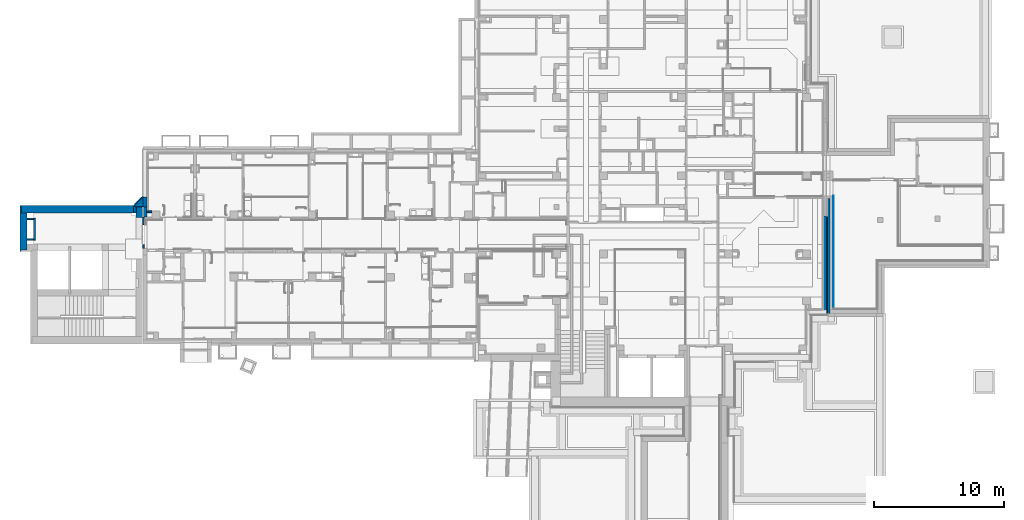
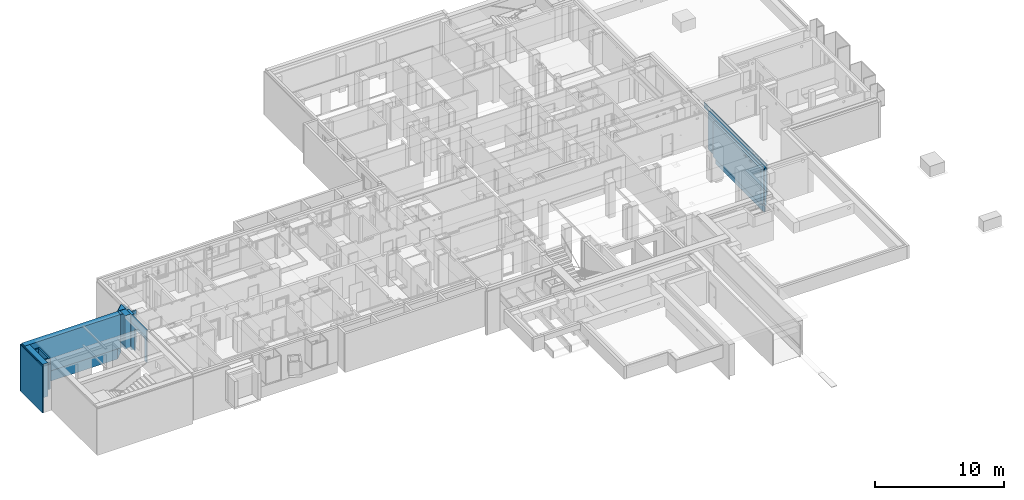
# One storey, part 21 of 84: 16 walls, 10 openings.
"""IFC4 building model written with IfcOpenShell, lengths in metres."""

from ifc_helpers import new_model, entity, si_unit, converted_unit, derived_unit, frame, frame_2d, origin, origin_with_axes, place, context, subcontext, project, spatial, polyline, rectangle, outline, extrude, clip, bounded_halfspace, material, layer, layer_set, layer_usage, element, save


model = new_model("IFC4")

# Units and contexts
model_context = context("Model", 3, precision=1e-05, world=origin())
body_context = subcontext(model_context, "Body", "Model", "MODEL_VIEW")
ifc_project = project(units=[si_unit("LENGTHUNIT", "METRE"), si_unit("AREAUNIT", "SQUARE_METRE"), si_unit("VOLUMEUNIT", "CUBIC_METRE"), si_unit("MASSUNIT", "GRAM", prefix="KILO"), converted_unit("PLANEANGLEUNIT", "DEGREE", entity("IfcPlaneAngleMeasure", 0.0174532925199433), si_unit("PLANEANGLEUNIT", "RADIAN"), dimensions=[0, 0, 0, 0, 0, 0, 0]), derived_unit("THERMALTRANSMITTANCEUNIT", [(si_unit("POWERUNIT", "WATT"), 1), (si_unit("THERMODYNAMICTEMPERATUREUNIT", "KELVIN"), -1), (si_unit("LENGTHUNIT", "METRE"), -2)]), derived_unit("VOLUMETRICFLOWRATEUNIT", [(si_unit("LENGTHUNIT", "METRE"), 3), (converted_unit("TIMEUNIT", "hour", entity("IfcTimeMeasure", 3600.0), si_unit("TIMEUNIT", "SECOND"), dimensions=[0, 0, 1, 0, 0, 0, 0]), -1), (si_unit("LENGTHUNIT", "METRE"), -1)])], contexts=[model_context])

# Site, building, storey
site_placement = place(None, origin())
site = spatial("IfcSite", under=ifc_project, at=site_placement, Name="3. ASŘ", CompositionType="ELEMENT")
building_placement = place(site_placement, origin())
building = spatial("IfcBuilding", under=site, at=building_placement, Name="Pavilon C", CompositionType="ELEMENT")
storey_placement = place(building_placement, frame((0.0, 0.0, -3.3)))
storey = spatial("IfcBuildingStorey", under=building, at=storey_placement, Name="Půdorys 1.PP", CompositionType="ELEMENT", Elevation=-3.3)

# Walls
ifc_material_1 = material(Name="ZELEZOBETONOVÁ KCE")
ifc_layer_1 = layer(ifc_material_1, 0.5)
ifc_layer_set_1 = layer_set([ifc_layer_1])
ifc_layer_usage_1 = layer_usage(ifc_layer_set_1, "AXIS2", "POSITIVE", 0.0)
wall_1_placement = place(storey_placement, frame((-1.02499999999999, 10.0, -0.1), z_axis=(0.0, 0.0, 1.0), x_axis=(0.0, 1.0, 0.0)))
element("IfcWall", 1, at=wall_1_placement, inside=storey, material=ifc_layer_usage_1, Name="ZELEZOBETONOVÁ KCE", context=body_context, shape_type="SweptSolid", body=[
    extrude(rectangle(XDim=0.8, YDim=0.5, at=frame_2d((0.4, 0.25), x_axis=(1.0, 0.0))), origin_with_axes(), (0.0, 0.0, 1.0), 3.18),
])
ifc_material_2 = material(Name="ZDIVO Z CDm")
ifc_layer_2 = layer(ifc_material_2, 0.125)
ifc_layer_set_2 = layer_set([ifc_layer_2])
ifc_layer_usage_2 = layer_usage(ifc_layer_set_2, "AXIS2", "POSITIVE", 0.0)
wall_2_placement = place(storey_placement, frame((-0.299999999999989, 10.5, -0.1), z_axis=(0.0, 0.0, 1.0), x_axis=(-1.0, 0.0, 0.0)))
element("IfcWall", 2, at=wall_2_placement, inside=storey, material=ifc_layer_usage_2, Name="ZDIVO Z CDm", context=body_context, shape_type="SweptSolid", body=[
    extrude(rectangle(XDim=0.4, YDim=0.125, at=frame_2d((0.2, 0.0625), x_axis=(1.0, 0.0))), origin_with_axes(), (0.0, 0.0, 1.0), 3.05),
])
ifc_material_3 = material(Name="ZELEZOBETONOVÁ KCE")
ifc_layer_3 = layer(ifc_material_3, 0.25)
ifc_layer_set_3 = layer_set([ifc_layer_3])
ifc_layer_usage_3 = layer_usage(ifc_layer_set_3, "AXIS2", "POSITIVE", 0.0)
wall_3_placement = place(storey_placement, frame((-0.699999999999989, 10.025, -0.4), z_axis=(0.0, 0.0, 1.0), x_axis=(1.46692693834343e-16, 1.0, 0.0)))
element("IfcWall", 3, at=wall_3_placement, inside=storey, material=ifc_layer_usage_3, Name="ZELEZOBETONOVÁ KCE", context=body_context, shape_type="SweptSolid", body=[
    extrude(rectangle(XDim=0.775, YDim=0.25, at=frame_2d((0.3875, 0.125), x_axis=(1.0, 0.0))), origin_with_axes(), (0.0, 0.0, 1.0), 3.35),
])
ifc_material_4 = material(Name="ZELEZOBETONOVÁ KCE")
ifc_layer_4 = layer(ifc_material_4, 0.45)
ifc_material_5 = material(Name="LIGNOPOR")
ifc_layer_5 = layer(ifc_material_5, 0.025)
ifc_material_6 = material(Name="PÓROBETONOVÉ ZDIVO")
ifc_layer_6 = layer(ifc_material_6, 0.08)
ifc_layer_set_4 = layer_set([ifc_layer_4, ifc_layer_5, ifc_layer_6])
ifc_layer_usage_4 = layer_usage(ifc_layer_set_4, "AXIS2", "POSITIVE", 0.0)
wall_4_placement = place(storey_placement, frame((-10.325, 10.35, -1.45)))
element("IfcWall", 4, at=wall_4_placement, inside=storey, material=ifc_layer_usage_4, Name="ZELEZOBETONOVÁ KCE", context=body_context, shape_type="Clipping", body=[
    clip(clip(clip(extrude(outline(polyline([(0.08, 0.45), (0.105, 0.45), (0.105, 0.0), (8.71253787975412, 0.0), (8.71253787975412, 0.475), (8.67940079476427, 0.555), (0.0, 0.555), (0.0, 0.475), (0.08, 0.475), (0.08, 0.45)])), frame((-0.105, 0.0, 0.0), z_axis=(0.0, 0.0, 1.0), x_axis=(1.0, 0.0, 0.0)), (0.0, 0.0, 1.0), 4.53), bounded_halfspace(frame((4.30376893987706, 0.224999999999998, 1.35), z_axis=(0.0, 0.0, 1.0), x_axis=(0.0, -1.0, 0.0)), True, origin_with_axes(), polyline([(0.0, 0.449999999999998), (0.0, -1.81898940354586e-15), (8.60753787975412, -1.81898940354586e-15), (8.60753787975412, 0.449999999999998), (0.0, 0.449999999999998)]))), bounded_halfspace(frame((3.43301515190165, 0.459999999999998, 1.45), z_axis=(0.0, 0.0, 1.0), x_axis=(0.0, -1.0, 0.0)), True, origin_with_axes(), polyline([(-0.025, 0.474999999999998), (-0.025, 0.449999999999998), (0.0, 0.449999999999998), (8.60753787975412, 0.449999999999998), (8.60753787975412, 0.474999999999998), (-0.025, 0.474999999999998)]))), bounded_halfspace(frame((3.38938773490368, 0.507, 4.4), z_axis=(0.0, 0.0, -1.0), x_axis=(1.0, 0.0, 0.0)), True, origin_with_axes(), polyline([(-0.025, 0.474999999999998), (8.60753787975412, 0.474999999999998), (8.57440079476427, 0.555), (-0.105, 0.555), (-0.105, 0.475), (-0.025, 0.474999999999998)]))),
])
ifc_material_7 = material(Name="PÓROBETONOVÉ ZDIVO")
ifc_layer_7 = layer(ifc_material_7, 0.0800000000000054)
ifc_layer_set_5 = layer_set([ifc_layer_7])
ifc_layer_usage_5 = layer_usage(ifc_layer_set_5, "AXIS2", "POSITIVE", 0.0)
wall_5_placement = place(storey_placement, frame((-1.71746212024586, 10.825, -1.45), z_axis=(0.0, 0.0, 1.0), x_axis=(0.707106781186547, 0.707106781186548, 0.0)))
element("IfcWall", 5, at=wall_5_placement, inside=storey, material=ifc_layer_usage_5, Name="ZELEZOBETONOVÁ KCE", context=body_context, shape_type="SweptSolid", body=[
    extrude(outline(polyline([(0.0234314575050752, -0.0234314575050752), (1.07343145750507, -0.0234314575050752), (1.0402943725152, 0.0565685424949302), (0.0565685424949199, 0.0565685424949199), (0.0234314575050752, -0.0234314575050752)])), frame((-0.0234314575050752, 0.0234314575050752, 0.0), z_axis=(0.0, 0.0, 1.0), x_axis=(1.0, 0.0, 0.0)), (0.0, 0.0, 1.0), 4.4),
])
ifc_material_8 = material(Name="ZELEZOBETONOVÁ KCE")
ifc_layer_8 = layer(ifc_material_8, 0.25)
ifc_material_9 = material(Name="LIGNOPOR")
ifc_layer_9 = layer(ifc_material_9, 0.0250000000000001)
ifc_layer_set_6 = layer_set([ifc_layer_8, ifc_layer_9])
ifc_layer_usage_6 = layer_usage(ifc_layer_set_6, "AXIS2", "POSITIVE", 0.0)
wall_6_placement = place(storey_placement, frame((-0.699999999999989, 10.8, -0.4), z_axis=(0.0, 0.0, 1.0), x_axis=(0.0, 1.0, 0.0)))
element("IfcWall", 6, at=wall_6_placement, inside=storey, material=ifc_layer_usage_6, Name="ZELEZOBETONOVÁ KCE", context=body_context, shape_type="Clipping", body=[
    clip(extrude(rectangle(XDim=0.767462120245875, YDim=0.275, at=frame_2d((0.383731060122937, 0.1375), x_axis=(1.0, 0.0))), origin_with_axes(), (0.0, 0.0, 1.0), 3.35), bounded_halfspace(frame((0.383731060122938, 0.2625, 0.4), z_axis=(0.0, 0.0, 1.0), x_axis=(0.0, -1.0, 0.0)), True, origin_with_axes(), polyline([(0.0, 0.275), (0.0, 0.25), (0.767462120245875, 0.25), (0.767462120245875, 0.275), (0.0, 0.275)]))),
])
ifc_material_10 = material(Name="ZELEZOBETONOVÁ KCE")
ifc_layer_10 = layer(ifc_material_10, 0.45)
ifc_material_11 = material(Name="LIGNOPOR")
ifc_layer_11 = layer(ifc_material_11, 0.025)
ifc_layer_set_7 = layer_set([ifc_layer_10, ifc_layer_11])
ifc_layer_usage_7 = layer_usage(ifc_layer_set_7, "AXIS2", "POSITIVE", 0.0)
wall_7_placement = place(storey_placement, frame((-1.71746212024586, 10.35, -0.1)))
element("IfcWall", 7, at=wall_7_placement, inside=storey, material=ifc_layer_usage_7, Name="ZELEZOBETONOVÁ KCE", context=body_context, shape_type="Clipping", body=[
    clip(extrude(outline(polyline([(0.0, 0.0), (0.192462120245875, 0.0), (0.192462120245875, 0.45), (0.692462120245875, 0.45), (0.692462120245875, 0.475), (0.0, 0.475), (0.0, 0.0)])), origin_with_axes(), (0.0, 0.0, 1.0), 3.18), bounded_halfspace(frame((0.315477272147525, 0.46, 0.1), z_axis=(0.0, 0.0, 1.0), x_axis=(0.0, -1.0, 0.0)), True, origin_with_axes(), polyline([(0.0, 0.475), (0.0, 0.45), (0.192462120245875, 0.45), (0.692462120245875, 0.45), (0.692462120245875, 0.475), (0.0, 0.475)]))),
])

# Wall, opening
ifc_material_12 = material(Name="ZDIVO Z CDm")
ifc_layer_12 = layer(ifc_material_12, 0.125)
ifc_layer_set_8 = layer_set([ifc_layer_12])
ifc_layer_usage_8 = layer_usage(ifc_layer_set_8, "AXIS2", "POSITIVE", 0.0)
wall_8_placement = place(storey_placement, frame((-0.999999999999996, 10.025, -0.1), z_axis=(0.0, 0.0, 1.0), x_axis=(-1.8947806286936e-16, -1.0, 0.0)))
wall_8 = element("IfcWall", 8, at=wall_8_placement, inside=storey, material=ifc_layer_usage_8, Name="ZDIVO Z CDm", context=body_context, shape_type="SweptSolid", body=[
    extrude(rectangle(XDim=2.4, YDim=0.125, at=frame_2d((1.2, 0.0625), x_axis=(1.0, 0.0))), origin_with_axes(), (0.0, 0.0, 1.0), 3.05),
])
opening_1_placement = place(wall_8_placement, frame((2.12500000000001, 0.125, 0.0), z_axis=(0.0, -1.0, 0.0), x_axis=(0.0, 0.0, 1.0)))
element("IfcOpeningElement", 9, at=opening_1_placement, cuts=wall_8, Name="Dveřní otvor", ObjectType="Opening", context=body_context, shape_type="SweptSolid", body=[
    extrude(outline(polyline([(0.0, 1.55), (2.12, 1.55), (2.12, 0.0), (0.0, 0.0), (0.0, 1.55)])), origin_with_axes(), (0.0, 0.0, 1.0), 0.125),
])

# Walls
ifc_material_13 = material(Name="ZELEZOBETONOVÁ KCE")
ifc_layer_13 = layer(ifc_material_13, 0.742462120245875)
ifc_layer_set_9 = layer_set([ifc_layer_13])
ifc_layer_usage_9 = layer_usage(ifc_layer_set_9, "AXIS2", "POSITIVE", 0.0)
wall_9_placement = place(storey_placement, frame((-1.71746212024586, 10.825, -0.1)))
element("IfcWall", 10, at=wall_9_placement, inside=storey, material=ifc_layer_usage_9, Name="ZELEZOBETONOVÁ KCE", context=body_context, shape_type="SweptSolid", body=[
    extrude(outline(polyline([(0.0, 0.0), (0.742462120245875, 0.0), (0.742462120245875, 0.742462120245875), (0.0, 0.0)])), origin_with_axes(), (0.0, 0.0, 1.0), 3.18),
])
ifc_material_14 = material(Name="ZDIVO Z CDm")
ifc_layer_14 = layer(ifc_material_14, 0.125)
ifc_layer_set_10 = layer_set([ifc_layer_14])
ifc_layer_usage_10 = layer_usage(ifc_layer_set_10, "AXIS2", "POSITIVE", 0.0)
wall_10_placement = place(storey_placement, frame((-9.37499999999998, 8.375, -0.1), z_axis=(0.0, 0.0, 1.0), x_axis=(-1.0, 0.0, 0.0)))
element("IfcWall", 11, at=wall_10_placement, inside=storey, material=ifc_layer_usage_10, Name="ZDIVO Z CDm", context=body_context, shape_type="SweptSolid", body=[
    extrude(rectangle(XDim=0.5, YDim=0.125, at=frame_2d((0.25, 0.0625), x_axis=(1.0, 0.0))), origin_with_axes(), (0.0, 0.0, 1.0), 2.93),
])
ifc_material_15 = material(Name="ZDIVO Z CDm")
ifc_layer_15 = layer(ifc_material_15, 0.125)
ifc_layer_set_11 = layer_set([ifc_layer_15])
ifc_layer_usage_11 = layer_usage(ifc_layer_set_11, "AXIS2", "POSITIVE", 0.0)
wall_11_placement = place(storey_placement, frame((-9.37499999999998, 9.95, -0.1), z_axis=(0.0, 0.0, 1.0), x_axis=(-1.0, 0.0, 0.0)))
element("IfcWall", 12, at=wall_11_placement, inside=storey, material=ifc_layer_usage_11, Name="ZDIVO Z CDm", context=body_context, shape_type="SweptSolid", body=[
    extrude(rectangle(XDim=0.5, YDim=0.125, at=frame_2d((0.25, 0.0625), x_axis=(1.0, 0.0))), origin_with_axes(), (0.0, 0.0, 1.0), 2.93),
])
ifc_material_16 = material(Name="ZELEZOBETONOVÁ KCE")
ifc_layer_16 = layer(ifc_material_16, 0.45)
ifc_material_17 = material(Name="LIGNOPOR")
ifc_layer_17 = layer(ifc_material_17, 0.025)
ifc_material_18 = material(Name="PÓROBETONOVÉ ZDIVO")
ifc_layer_18 = layer(ifc_material_18, 0.08)
ifc_layer_set_12 = layer_set([ifc_layer_16, ifc_layer_17, ifc_layer_18])
ifc_layer_usage_12 = layer_usage(ifc_layer_set_12, "AXIS2", "POSITIVE", 0.0)
wall_12_placement = place(storey_placement, frame((-9.87499999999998, 7.5, -1.45), z_axis=(0.0, 0.0, 1.0), x_axis=(0.0, 1.0, 0.0)))
element("IfcWall", 13, at=wall_12_placement, inside=storey, material=ifc_layer_usage_12, Name="ZELEZOBETONOVÁ KCE", context=body_context, shape_type="Clipping", body=[
    clip(clip(clip(extrude(outline(polyline([(0.105, -0.555), (2.955, -0.555), (2.955, -0.105), (3.405, -0.105), (3.405, -0.08), (3.43, -0.08), (3.43, 0.0), (0.0, 0.0), (0.0, -0.08), (0.08, -0.08), (0.08, -0.105), (0.105, -0.105), (0.105, -0.555)])), frame((-0.105, 0.555, 0.0), z_axis=(0.0, 0.0, 1.0), x_axis=(1.0, 0.0, 0.0)), (0.0, 0.0, 1.0), 4.53), bounded_halfspace(frame((1.425, 0.225, 1.35), z_axis=(0.0, 0.0, 1.0), x_axis=(0.0, -1.0, 0.0)), True, origin_with_axes(), polyline([(-9.09494701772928e-16, 0.45), (-9.09494701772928e-16, 0.0), (2.85, 0.0), (2.85, 0.45), (-9.09494701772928e-16, 0.45)]))), bounded_halfspace(frame((1.56666666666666, 0.458333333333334, 1.45), z_axis=(0.0, 0.0, 1.0), x_axis=(0.0, -1.0, 0.0)), True, origin_with_axes(), polyline([(-0.0250000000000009, 0.475), (-0.0250000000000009, 0.45), (-9.09494701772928e-16, 0.45), (2.85, 0.45), (3.3, 0.45), (3.3, 0.475), (-0.0250000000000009, 0.475)]))), bounded_halfspace(frame((1.61916666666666, 0.501666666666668, 4.4), z_axis=(0.0, 0.0, -1.0), x_axis=(1.0, 0.0, 0.0)), True, origin_with_axes(), polyline([(3.3, 0.475), (3.325, 0.475), (3.325, 0.555), (-0.105, 0.555), (-0.105, 0.475), (-0.0250000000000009, 0.475), (3.3, 0.475)]))),
])
ifc_material_19 = material(Name="ZDIVO Z CDm")
ifc_layer_19 = layer(ifc_material_19, 0.125)
ifc_layer_set_13 = layer_set([ifc_layer_19])
ifc_layer_usage_13 = layer_usage(ifc_layer_set_13, "AXIS2", "POSITIVE", 0.0)
wall_13_placement = place(storey_placement, frame((-9.37499999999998, 9.95, -0.1), z_axis=(0.0, 0.0, 1.0), x_axis=(0.0, -1.0, 0.0)))
element("IfcWall", 14, at=wall_13_placement, inside=storey, material=ifc_layer_usage_13, Name="ZDIVO Z CDm", context=body_context, shape_type="SweptSolid", body=[
    extrude(rectangle(XDim=1.7, YDim=0.125, at=frame_2d((0.85, 0.0625), x_axis=(1.0, 0.0))), origin_with_axes(), (0.0, 0.0, 1.0), 2.93),
])

# Wall, openings
ifc_material_20 = material(Name="ZELEZOBETONOVÁ KCE")
ifc_layer_20 = layer(ifc_material_20, 0.2)
ifc_material_21 = material(Name="LIGNOPOR")
ifc_layer_21 = layer(ifc_material_21, 0.025)
ifc_material_22 = material(Name="PÓROBETONOVÉ ZDIVO")
ifc_layer_22 = layer(ifc_material_22, 0.08)
ifc_layer_set_14 = layer_set([ifc_layer_20, ifc_layer_21, ifc_layer_22])
ifc_layer_usage_14 = layer_usage(ifc_layer_set_14, "AXIS2", "POSITIVE", 0.0)
wall_14_placement = place(storey_placement, frame((51.25, 10.1, -1.15), z_axis=(0.0, 0.0, 1.0), x_axis=(0.0, -1.0, 0.0)))
wall_14 = element("IfcWall", 15, at=wall_14_placement, inside=storey, material=ifc_layer_usage_14, Name="ZELEZOBETONOVÁ KCE", context=body_context, shape_type="Clipping", body=[
    clip(clip(clip(extrude(outline(polyline([(-7.575, 0.0), (-0.105, 0.0), (-0.105, 0.2), (-0.08, 0.2), (-0.08, 0.225), (0.0, 0.225), (0.0, 0.305), (-7.575, 0.305), (-7.575, 0.0)])), frame((7.575, 0.0, 0.0), z_axis=(0.0, 0.0, 1.0), x_axis=(1.0, 0.0, 0.0)), (0.0, 0.0, 1.0), 4.1), bounded_halfspace(frame((3.735, 0.1, 0.750000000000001), z_axis=(0.0, 0.0, 1.0), x_axis=(0.0, -1.0, 0.0)), True, origin_with_axes(), polyline([(0.0, 0.2), (0.0, 0.0), (7.47, 0.0), (7.47, 0.2), (0.0, 0.2)]))), bounded_halfspace(frame((4.492, 0.210000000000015, 1.15), z_axis=(8.82914596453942e-30, -9.09494701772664e-15, 1.0), x_axis=(0.0, -1.0, 0.0)), True, origin_with_axes(), polyline([(0.0, 0.225000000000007), (0.0, 0.2), (7.47, 0.2), (7.495, 0.200000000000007), (7.495, 0.225000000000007), (0.0, 0.225000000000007)]))), bounded_halfspace(frame((3.7875, 0.265000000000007, 0.550000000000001), z_axis=(0.0, 0.0, -1.0), x_axis=(1.0, 0.0, 0.0)), True, origin_with_axes(), polyline([(0.0, 0.225000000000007), (7.575, 0.225000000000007), (7.575, 0.305000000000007), (0.0, 0.305000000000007), (0.0, 0.225000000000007)]))),
])
opening_2_placement = place(wall_14_placement, frame((6.03139110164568, 0.305, 3.85), z_axis=(0.0, -1.0, 0.0), x_axis=(0.0, 0.0, 1.0)))
element("IfcOpeningElement", 16, at=opening_2_placement, cuts=wall_14, Name="Prostup stěnou", ObjectType="Opening", context=body_context, shape_type="SweptSolid", body=[
    extrude(outline(polyline([(0.0, 0.299999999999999), (0.15, 0.299999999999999), (0.15, 0.0), (0.0, 0.0), (0.0, 0.299999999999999)])), origin_with_axes(), (0.0, 0.0, 1.0), 0.08),
    extrude(outline(polyline([(0.0, 0.299999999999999), (0.15, 0.299999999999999), (0.15, 0.0), (0.0, 0.0), (0.0, 0.299999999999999)])), frame((0.0, 0.0, 0.08), z_axis=(0.0, 0.0, 1.0), x_axis=(1.0, 0.0, 0.0)), (0.0, 0.0, 1.0), 0.025),
    extrude(outline(polyline([(0.0, 0.299999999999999), (0.15, 0.299999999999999), (0.15, 0.0), (0.0, 0.0), (0.0, 0.299999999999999)])), frame((0.0, 0.0, 0.105), z_axis=(0.0, 0.0, 1.0), x_axis=(1.0, 0.0, 0.0)), (0.0, 0.0, 1.0), 0.2),
])
opening_3_placement = place(wall_14_placement, frame((5.21139110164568, 0.305, 3.85), z_axis=(0.0, -1.0, 0.0), x_axis=(0.0, 0.0, 1.0)))
element("IfcOpeningElement", 17, at=opening_3_placement, cuts=wall_14, Name="Prostup stěnou", ObjectType="Opening", context=body_context, shape_type="SweptSolid", body=[
    extrude(outline(polyline([(0.0, 0.3), (0.15, 0.3), (0.15, 0.0), (0.0, 0.0), (0.0, 0.3)])), origin_with_axes(), (0.0, 0.0, 1.0), 0.08),
    extrude(outline(polyline([(0.0, 0.3), (0.15, 0.3), (0.15, 0.0), (0.0, 0.0), (0.0, 0.3)])), frame((0.0, 0.0, 0.08), z_axis=(0.0, 0.0, 1.0), x_axis=(1.0, 0.0, 0.0)), (0.0, 0.0, 1.0), 0.025),
    extrude(outline(polyline([(0.0, 0.3), (0.15, 0.3), (0.15, 0.0), (0.0, 0.0), (0.0, 0.3)])), frame((0.0, 0.0, 0.105), z_axis=(0.0, 0.0, 1.0), x_axis=(1.0, 0.0, 0.0)), (0.0, 0.0, 1.0), 0.2),
])

ifc_material_23 = material(Name="AKUSTICKÝ OBKLAD")
ifc_layer_23 = layer(ifc_material_23, 0.05)
ifc_layer_set_15 = layer_set([ifc_layer_23])
ifc_layer_usage_15 = layer_usage(ifc_layer_set_15, "AXIS2", "POSITIVE", 0.0)
wall_15_placement = place(storey_placement, frame((51.98, 12.8, 0.0), z_axis=(0.0, 0.0, 1.0), x_axis=(0.0, -1.0, 0.0)))
wall_15 = element("IfcWall", 18, at=wall_15_placement, inside=storey, material=ifc_layer_usage_15, Name="AKUSTICKÝ OBKLAD", context=body_context, shape_type="SweptSolid", body=[
    extrude(rectangle(XDim=9.81999999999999, YDim=0.05, at=frame_2d((4.91, 0.025), x_axis=(1.0, 0.0))), origin_with_axes(), (0.0, 0.0, 1.0), 2.9),
])
opening_4_placement = place(wall_15_placement, frame((0.916154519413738, 0.05, 2.58), z_axis=(0.0, -1.0, 0.0), x_axis=(0.0, 0.0, 1.0)))
element("IfcOpeningElement", 19, at=opening_4_placement, cuts=wall_15, Name="Prostup stěnou", ObjectType="Opening", context=body_context, shape_type="SweptSolid", body=[
    extrude(outline(polyline([(0.149999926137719, 0.0), (0.134320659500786, 0.000821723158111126), (0.118813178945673, 0.00327787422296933), (0.103647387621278, 0.00734154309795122), (0.0889894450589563, 0.0129682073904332), (0.074999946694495, 0.0200962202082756), (0.0618321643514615, 0.0286474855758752), (0.0496303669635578, 0.0385283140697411), (0.0385282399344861, 0.0496304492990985), (0.0286474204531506, 0.0618322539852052), (0.0200961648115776, 0.0750000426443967), (0.0129681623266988, 0.0889895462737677), (0.00734150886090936, 0.103647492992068), (0.00327785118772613, 0.11881328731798), (0.000821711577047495, 0.134320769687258), (0.0, 0.150000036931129), (0.000821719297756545, 0.165679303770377), (0.00327786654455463, 0.181186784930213), (0.00734153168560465, 0.196352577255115), (0.0129681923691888, 0.211010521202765), (0.0200962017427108, 0.225000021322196), (0.0286474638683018, 0.238167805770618), (0.0385282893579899, 0.250369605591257), (0.0496304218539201, 0.261471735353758), (0.0618322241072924, 0.271352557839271), (0.075000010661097, 0.279903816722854), (0.0889895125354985, 0.287031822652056), (0.103647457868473, 0.292658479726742), (0.118813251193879, 0.296722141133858), (0.134320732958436, 0.299178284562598), (0.149999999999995, 0.3), (0.165679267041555, 0.299178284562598), (0.181186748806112, 0.296722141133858), (0.196352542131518, 0.292658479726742), (0.211010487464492, 0.287031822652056), (0.224999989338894, 0.279903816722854), (0.238167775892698, 0.271352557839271), (0.250369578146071, 0.261471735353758), (0.261471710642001, 0.250369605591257), (0.271352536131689, 0.238167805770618), (0.27990379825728, 0.225000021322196), (0.287031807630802, 0.211010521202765), (0.292658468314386, 0.196352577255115), (0.296722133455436, 0.181186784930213), (0.299178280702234, 0.165679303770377), (0.299999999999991, 0.150000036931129), (0.299178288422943, 0.134320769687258), (0.296722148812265, 0.11881328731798), (0.292658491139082, 0.103647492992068), (0.287031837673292, 0.0889895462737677), (0.279903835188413, 0.0750000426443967), (0.27135257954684, 0.0618322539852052), (0.261471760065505, 0.0496304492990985), (0.250369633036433, 0.0385283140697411), (0.238167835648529, 0.0286474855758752), (0.225000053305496, 0.0200962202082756), (0.211010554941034, 0.0129682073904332), (0.196352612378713, 0.00734154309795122), (0.181186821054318, 0.00327787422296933), (0.165679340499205, 0.000821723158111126), (0.149999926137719, 0.0)])), origin_with_axes(), (0.0, 0.0, 1.0), 0.05),
])
opening_5_placement = place(wall_15_placement, frame((0.280867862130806, 0.0, 2.7), z_axis=(0.0, 1.0, 0.0), x_axis=(0.0, 0.0, 1.0)))
element("IfcOpeningElement", 20, at=opening_5_placement, cuts=wall_15, Name="Prostup stěnou", ObjectType="Opening", context=body_context, shape_type="SweptSolid", body=[
    extrude(outline(polyline([(0.0499999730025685, 0.0), (0.0447735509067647, 0.000273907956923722), (0.0396043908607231, 0.00109262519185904), (0.0345491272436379, 0.00244718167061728), (0.0296631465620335, 0.00432273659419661), (0.0249999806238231, 0.00669874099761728), (0.0206107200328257, 0.0095491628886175), (0.0165434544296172, 0.0128427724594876), (0.0128427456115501, 0.0165434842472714), (0.00954913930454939, 0.0206107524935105), (0.00669872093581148, 0.025000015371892), (0.00432272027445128, 0.0296631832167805), (0.00244716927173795, 0.0345491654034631), (0.00109261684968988, 0.0396044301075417), (0.000273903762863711, 0.0447735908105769), (0.0, 0.0500000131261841), (0.000273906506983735, 0.0552264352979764), (0.00109262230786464, 0.0603955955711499), (0.00244717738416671, 0.0654508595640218), (0.00432273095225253, 0.0703368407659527), (0.00669873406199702, 0.0750000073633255), (0.00954915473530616, 0.0793892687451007), (0.0128427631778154, 0.0834565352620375), (0.0165434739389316, 0.087157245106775), (0.020610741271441, 0.090450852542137), (0.0250000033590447, 0.0933012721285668), (0.0296631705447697, 0.0956772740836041), (0.0345491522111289, 0.0975528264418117), (0.03960441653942, 0.098907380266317), (0.0447735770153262, 0.0997260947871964), (0.0499999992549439, 0.1), (0.0552264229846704, 0.0997260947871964), (0.0603955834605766, 0.098907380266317), (0.0654508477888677, 0.0975528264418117), (0.0703368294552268, 0.0956772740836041), (0.0749999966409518, 0.0933012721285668), (0.0793892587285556, 0.090450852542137), (0.083456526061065, 0.087157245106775), (0.0871572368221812, 0.0834565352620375), (0.0904508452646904, 0.0793892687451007), (0.0933012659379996, 0.0750000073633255), (0.0956772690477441, 0.0703368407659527), (0.0975528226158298, 0.0654508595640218), (0.098907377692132, 0.0603955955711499), (0.0997260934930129, 0.0552264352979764), (0.0999999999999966, 0.0500000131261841), (0.0997260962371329, 0.0447735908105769), (0.0989073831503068, 0.0396044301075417), (0.0975528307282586, 0.0345491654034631), (0.0956772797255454, 0.0296631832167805), (0.0933012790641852, 0.025000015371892), (0.0904508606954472, 0.0206107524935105), (0.0871572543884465, 0.0165434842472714), (0.0834565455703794, 0.0128427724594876), (0.0793892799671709, 0.0095491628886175), (0.0750000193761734, 0.00669874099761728), (0.0703368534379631, 0.00432273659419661), (0.0654508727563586, 0.00244718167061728), (0.0603956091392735, 0.00109262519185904), (0.0552264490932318, 0.000273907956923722), (0.0499999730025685, 0.0)])), origin_with_axes(), (0.0, 0.0, 1.0), 0.05),
])
opening_6_placement = place(wall_15_placement, frame((7.91139110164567, 0.05, 2.7), z_axis=(0.0, -1.0, 0.0), x_axis=(0.0, 0.0, 1.0)))
element("IfcOpeningElement", 21, at=opening_6_placement, cuts=wall_15, Name="Prostup stěnou", ObjectType="Opening", context=body_context, shape_type="SweptSolid", body=[
    extrude(outline(polyline([(0.0, 0.3), (0.15, 0.3), (0.15, 0.0), (0.0, 0.0), (0.0, 0.3)])), origin_with_axes(), (0.0, 0.0, 1.0), 0.05),
])
opening_7_placement = place(wall_15_placement, frame((8.74139110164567, 0.05, 2.7), z_axis=(0.0, -1.0, 0.0), x_axis=(0.0, 0.0, 1.0)))
element("IfcOpeningElement", 22, at=opening_7_placement, cuts=wall_15, Name="Prostup stěnou", ObjectType="Opening", context=body_context, shape_type="SweptSolid", body=[
    extrude(outline(polyline([(0.0, 0.31), (0.15, 0.31), (0.15, 0.0), (0.0, 0.0), (0.0, 0.31)])), origin_with_axes(), (0.0, 0.0, 1.0), 0.05),
])
opening_8_placement = place(wall_15_placement, frame((1.15, 0.05, 0.0), z_axis=(0.0, -1.0, 0.0), x_axis=(0.0, 0.0, 1.0)))
element("IfcOpeningElement", 23, at=opening_8_placement, cuts=wall_15, Name="Dveřní otvor", ObjectType="Opening", context=body_context, shape_type="SweptSolid", body=[
    extrude(outline(polyline([(0.0, 1.15), (2.4, 1.15), (2.4, 0.0), (0.0, 0.0), (0.0, 1.15)])), origin_with_axes(), (0.0, 0.0, 1.0), 0.05),
])

ifc_material_24 = material(Name="PERIMETR")
ifc_layer_24 = layer(ifc_material_24, 0.17)
ifc_layer_set_16 = layer_set([ifc_layer_24])
ifc_layer_usage_16 = layer_usage(ifc_layer_set_16, "AXIS2", "POSITIVE", 0.0)
wall_16_placement = place(storey_placement, frame((51.73, 2.63, -0.6), z_axis=(0.0, 0.0, 1.0), x_axis=(0.0, 1.0, 0.0)))
wall_16 = element("IfcWall", 24, at=wall_16_placement, inside=storey, material=ifc_layer_usage_16, Name="PERIMETR", context=body_context, shape_type="SweptSolid", body=[
    extrude(rectangle(XDim=8.82, YDim=0.17, at=frame_2d((4.41, 0.085), x_axis=(1.0, 0.0))), origin_with_axes(), (0.0, 0.0, 1.0), 3.55),
])
opening_9_placement = place(wall_16_placement, frame((1.42860889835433, 0.0, 3.3), z_axis=(0.0, 1.0, 0.0), x_axis=(0.0, 0.0, 1.0)))
element("IfcOpeningElement", 25, at=opening_9_placement, cuts=wall_16, Name="UT", ObjectType="Opening", context=body_context, shape_type="SweptSolid", body=[
    extrude(outline(polyline([(0.0, 0.31), (0.15, 0.31), (0.15, 0.0), (0.0, 0.0), (0.0, 0.31)])), origin_with_axes(), (0.0, 0.0, 1.0), 0.17),
])
opening_10_placement = place(wall_16_placement, frame((2.25860889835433, 0.0, 3.3), z_axis=(0.0, 1.0, 0.0), x_axis=(0.0, 0.0, 1.0)))
element("IfcOpeningElement", 26, at=opening_10_placement, cuts=wall_16, Name="UT", ObjectType="Opening", context=body_context, shape_type="SweptSolid", body=[
    extrude(outline(polyline([(0.0, 0.3), (0.15, 0.3), (0.15, 0.0), (0.0, 0.0), (0.0, 0.3)])), origin_with_axes(), (0.0, 0.0, 1.0), 0.17),
])

save(model, "model.ifc")
